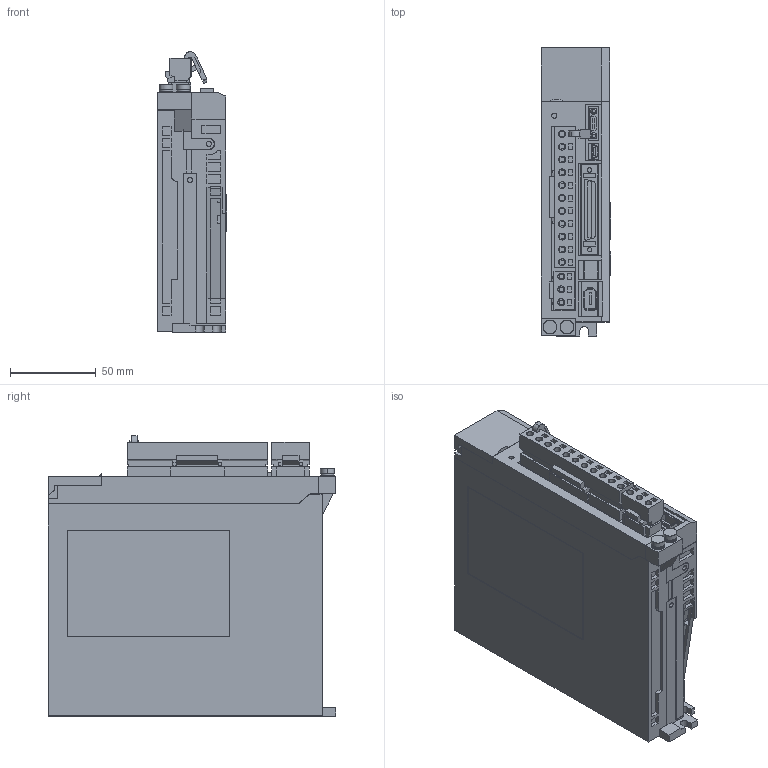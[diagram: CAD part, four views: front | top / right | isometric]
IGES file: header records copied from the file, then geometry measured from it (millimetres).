
Start section: SolidWorks IGES file using analytic representation for surfaces
Global section: file name: D:\YASKAWA\sgd7s_1r6a00a.IGS; native system: SolidWorks 2006 by SolidWorks Corporation; preprocessor: SolidWorks 2006 by SolidWorks Corporation; author: yamanouchi; date: 140306.132907; units: millimetre
Bounding box: 40.5 x 168 x 163.84 mm (x, y, z)
Surface area: 130859.9 mm2 (no closed solid volume)
Topology: 0 solids, 0 shells, 1641 faces, 13009 edges, 13009 vertices
Faces by surface type: bspline 1438, revolution 203
